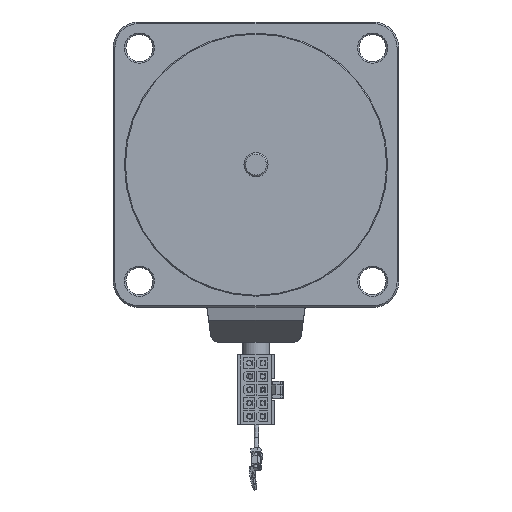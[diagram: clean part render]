
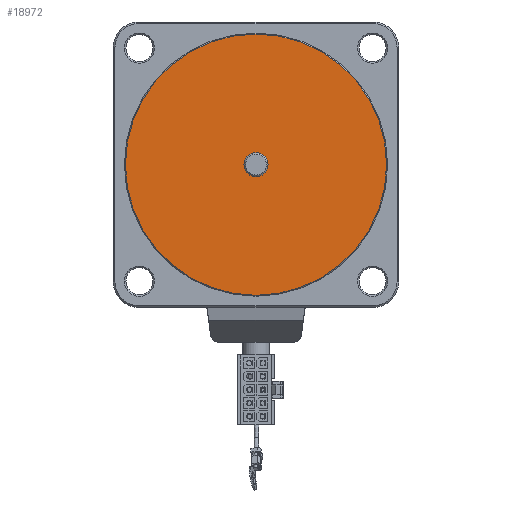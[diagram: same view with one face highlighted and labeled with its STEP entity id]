
A CAD part, front view. The second image highlights one B-rep face of the part: STEP entity #18972.
In plain terms, the highlighted planar face has unit normal (0, -1, 0).
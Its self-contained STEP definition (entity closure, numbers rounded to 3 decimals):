
#254 = EDGE_CURVE ( 'NONE', #10276, #11185, #31916, .T. ) ;
#384 = CARTESIAN_POINT ( 'NONE',  ( 0., -2., 0. ) ) ;
#1054 = CARTESIAN_POINT ( 'NONE',  ( 0., -2., 0. ) ) ;
#1956 = CIRCLE ( 'NONE', #19994, 41.2 ) ;
#3202 = DIRECTION ( 'NONE',  ( 0., 1., 0. ) ) ;
#3254 = EDGE_CURVE ( 'NONE', #10034, #29712, #30526, .T. ) ;
#4379 = EDGE_LOOP ( 'NONE', ( #13550, #30185 ) ) ;
#5110 = DIRECTION ( 'NONE',  ( -1., 0., 0. ) ) ;
#5995 = EDGE_CURVE ( 'NONE', #11185, #10276, #1956, .T. ) ;
#6120 = CARTESIAN_POINT ( 'NONE',  ( 0., -2., 0. ) ) ;
#6868 = ORIENTED_EDGE ( 'NONE', *, *, #3254, .T. ) ;
#7263 = PLANE ( 'NONE',  #21817 ) ;
#10034 = VERTEX_POINT ( 'NONE', #24858 ) ;
#10107 = DIRECTION ( 'NONE',  ( 0., 1., 0. ) ) ;
#10276 = VERTEX_POINT ( 'NONE', #24016 ) ;
#11185 = VERTEX_POINT ( 'NONE', #18567 ) ;
#12920 = AXIS2_PLACEMENT_3D ( 'NONE', #14708, #27341, #5110 ) ;
#13213 = ORIENTED_EDGE ( 'NONE', *, *, #24286, .T. ) ;
#13550 = ORIENTED_EDGE ( 'NONE', *, *, #254, .F. ) ;
#14476 = CIRCLE ( 'NONE', #12920, 3.8 ) ;
#14708 = CARTESIAN_POINT ( 'NONE',  ( 0., -2., 0. ) ) ;
#14838 = AXIS2_PLACEMENT_3D ( 'NONE', #384, #10107, #30060 ) ;
#15220 = DIRECTION ( 'NONE',  ( -1., 0., 0. ) ) ;
#16041 = DIRECTION ( 'NONE',  ( -1., 0., 0. ) ) ;
#17005 = CARTESIAN_POINT ( 'NONE',  ( 0., -2., 0. ) ) ;
#17162 = DIRECTION ( 'NONE',  ( 1., 0., 0. ) ) ;
#17949 = CARTESIAN_POINT ( 'NONE',  ( 3.8, -2., 0. ) ) ;
#18567 = CARTESIAN_POINT ( 'NONE',  ( 41.2, -2., 0. ) ) ;
#18972 = ADVANCED_FACE ( 'NONE', ( #29957, #19590 ), #7263, .F. ) ;
#19590 = FACE_BOUND ( 'NONE', #26123, .T. ) ;
#19994 = AXIS2_PLACEMENT_3D ( 'NONE', #6120, #3202, #16041 ) ;
#21817 = AXIS2_PLACEMENT_3D ( 'NONE', #17005, #24611, #17162 ) ;
#22676 = DIRECTION ( 'NONE',  ( 0., 1., 0. ) ) ;
#23279 = AXIS2_PLACEMENT_3D ( 'NONE', #1054, #22676, #15220 ) ;
#24016 = CARTESIAN_POINT ( 'NONE',  ( -41.2, -2., 0. ) ) ;
#24286 = EDGE_CURVE ( 'NONE', #29712, #10034, #14476, .T. ) ;
#24611 = DIRECTION ( 'NONE',  ( 0., 1., 0. ) ) ;
#24858 = CARTESIAN_POINT ( 'NONE',  ( -3.8, -2., 0. ) ) ;
#26123 = EDGE_LOOP ( 'NONE', ( #6868, #13213 ) ) ;
#27341 = DIRECTION ( 'NONE',  ( 0., 1., 0. ) ) ;
#29712 = VERTEX_POINT ( 'NONE', #17949 ) ;
#29957 = FACE_OUTER_BOUND ( 'NONE', #4379, .T. ) ;
#30060 = DIRECTION ( 'NONE',  ( -1., 0., 0. ) ) ;
#30185 = ORIENTED_EDGE ( 'NONE', *, *, #5995, .F. ) ;
#30526 = CIRCLE ( 'NONE', #23279, 3.8 ) ;
#31916 = CIRCLE ( 'NONE', #14838, 41.2 ) ;
